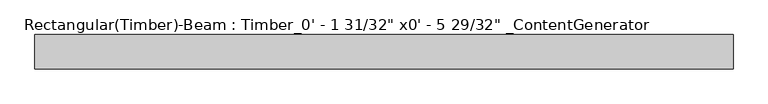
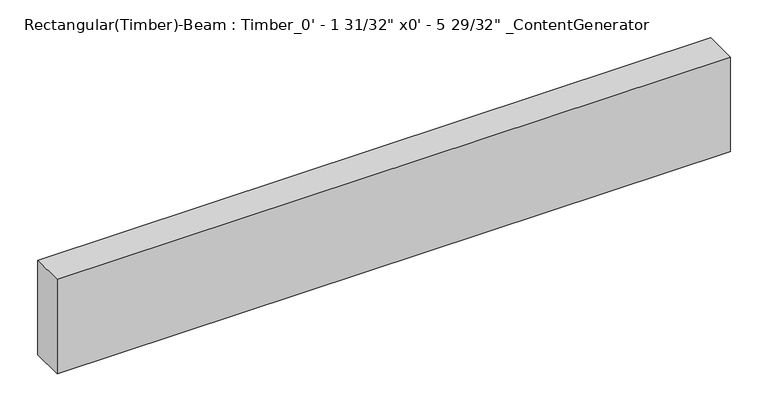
"""IFC4 building model written with IfcOpenShell, lengths in millimetres: beam geometry."""

import ifcopenshell
import ifcopenshell.guid

model = None  # the IFC model being written
_history = None  # IfcOwnerHistory: only IFC2X3 demands one
_inside = {}  # id of a spatial element -> (the spatial element, [elements in it])
_under = {}  # id of a project, library or spatial element -> (it, [spatial elements below it])
_declared = {}  # id of a project -> (the project, [libraries it declares])
_typed = {}  # id of a type object -> (the type object, [elements of that type])
_made_of = {}  # id of a material, layer set ... -> (it, [elements and type objects made of it])


def new_model(schema):
    """Start an empty IFC model of exactly this schema.

    Asked for "IFC4X3", IfcOpenShell would pick the latest addendum, in which some entities
    have other attributes; the version numbers below select the first issue.
    IFC2X3 requires an IfcOwnerHistory on every rooted entity: one is made here for all.
    """
    global model, _history
    if schema == "IFC4X3":
        model = ifcopenshell.file(schema_version=(4, 3, 0, 0))
    else:
        model = ifcopenshell.file(schema=schema)
    _inside.clear()
    _under.clear()
    _declared.clear()
    _typed.clear()
    _made_of.clear()
    _history = None
    if model.schema == "IFC2X3":
        org = make("IfcOrganization", Name="unknown")
        user = make(
            "IfcPersonAndOrganization",
            ThePerson=make("IfcPerson", FamilyName="unknown"),
            TheOrganization=org,
        )
        app = make(
            "IfcApplication",
            ApplicationDeveloper=org,
            Version="unknown",
            ApplicationFullName="unknown",
            ApplicationIdentifier="unknown",
        )
        _history = make(
            "IfcOwnerHistory",
            OwningUser=user,
            OwningApplication=app,
            ChangeAction="ADDED",
            CreationDate=0,
        )
    return model


def make(cls, **values):
    """One entity of the class cls with the attributes given. An attribute that is None is left unset."""
    return model.create_entity(
        cls, **{name: value for name, value in values.items() if value is not None}
    )


def rooted(cls, **values):
    """An entity with a GlobalId (a new one), such as an element, a storey or a relation."""
    return make(cls, GlobalId=ifcopenshell.guid.new(), OwnerHistory=_history, **values)


def si_unit(unit_type, name, prefix=None):
    """IfcSIUnit, for example si_unit("LENGTHUNIT", "METRE", prefix="MILLI")."""
    return make("IfcSIUnit", UnitType=unit_type, Prefix=prefix, Name=name)


def assignment(units):
    """IfcUnitAssignment: the units of a project."""
    return None if units is None else make("IfcUnitAssignment", Units=units)


def point(xyz):
    """IfcCartesianPoint."""
    return None if xyz is None else make("IfcCartesianPoint", Coordinates=xyz)


def direction(xyz):
    """IfcDirection."""
    return None if xyz is None else make("IfcDirection", DirectionRatios=xyz)


def frame(location, z_axis=None, x_axis=None):
    """IfcAxis2Placement3D, a coordinate frame: its origin and axes. An axis left out is left unset."""
    return make(
        "IfcAxis2Placement3D",
        Location=point(location),
        Axis=direction(z_axis),
        RefDirection=direction(x_axis),
    )


def origin():
    """The frame at (0, 0, 0) with its axes left unset."""
    return frame((0.0, 0.0, 0.0))


def place(relative_to, where):
    """IfcLocalPlacement: puts the frame where relative to a parent placement (None: the world)."""
    return make(
        "IfcLocalPlacement", PlacementRelTo=relative_to, RelativePlacement=where
    )


def context(
    kind, dimensions, precision=None, world=None, true_north=None, identifier=None
):
    """IfcGeometricRepresentationContext, for example the 3D "Model" context."""
    return make(
        "IfcGeometricRepresentationContext",
        ContextIdentifier=identifier,
        ContextType=kind,
        CoordinateSpaceDimension=dimensions,
        Precision=precision,
        WorldCoordinateSystem=world,
        TrueNorth=true_north,
    )


def project(units=None, contexts=None):
    """IfcProject with its units and contexts."""
    return rooted(
        "IfcProject",
        Name="project",
        RepresentationContexts=contexts,
        UnitsInContext=assignment(units),
    )


def spatial(cls, under=None, at=None, **own):
    """A site, building, storey or space (cls), placed at a placement, below another one or the project."""
    s = rooted(cls, ObjectPlacement=at, **own)
    if under is not None:
        _under.setdefault(under.id(), (under, []))[1].append(s)
    return s


def polyline(points):
    """IfcPolyline through the points."""
    return make("IfcPolyline", Points=[point(p) for p in points])


def outline(outer, holes=None, kind="AREA"):
    """IfcArbitraryClosedProfileDef: a profile drawn as a closed curve; with holes, ...WithVoids."""
    if holes is None:
        return make("IfcArbitraryClosedProfileDef", ProfileType=kind, OuterCurve=outer)
    return make(
        "IfcArbitraryProfileDefWithVoids",
        ProfileType=kind,
        OuterCurve=outer,
        InnerCurves=holes,
    )


def extrude(swept, where, along, depth):
    """IfcExtrudedAreaSolid: the profile swept, set in the frame where, extruded along a direction by depth."""
    return make(
        "IfcExtrudedAreaSolid",
        SweptArea=swept,
        Position=where,
        ExtrudedDirection=direction(along),
        Depth=depth,
    )


def shape(context_of_items, identifier, shape_type, items):
    """IfcShapeRepresentation: the items that make up one representation, for example the "Body"."""
    return make(
        "IfcShapeRepresentation",
        ContextOfItems=context_of_items,
        RepresentationIdentifier=identifier,
        RepresentationType=shape_type,
        Items=items,
    )


def source(mapping_origin, context_of_items, identifier, shape_type, items):
    """IfcRepresentationMap: a shape defined once, which mapped items show again and again."""
    return make(
        "IfcRepresentationMap",
        MappingOrigin=mapping_origin,
        MappedRepresentation=shape(context_of_items, identifier, shape_type, items),
    )


def transform(
    local_origin,
    x_axis=None,
    y_axis=None,
    z_axis=None,
    scale=None,
    scale2=None,
    scale3=None,
    uniform=True,
):
    """IfcCartesianTransformationOperator3D, or its non-uniform kind. x_axis, y_axis, z_axis: its Axis1, 2, 3."""
    if uniform:
        return make(
            "IfcCartesianTransformationOperator3D",
            Axis1=direction(x_axis),
            Axis2=direction(y_axis),
            LocalOrigin=point(local_origin),
            Scale=scale,
            Axis3=direction(z_axis),
        )
    return make(
        "IfcCartesianTransformationOperator3DnonUniform",
        Axis1=direction(x_axis),
        Axis2=direction(y_axis),
        LocalOrigin=point(local_origin),
        Scale=scale,
        Axis3=direction(z_axis),
        Scale2=scale2,
        Scale3=scale3,
    )


def mapped(mapping_source, mapping_target):
    """IfcMappedItem: shows the shape of a source again, moved by a transform."""
    return make(
        "IfcMappedItem", MappingSource=mapping_source, MappingTarget=mapping_target
    )


def made_of(thing, what):
    """Note that an element or type object is made of a material, layer set ...; save() writes the relation."""
    if what is not None:
        _made_of.setdefault(what.id(), (what, []))[1].append(thing)
    return thing


def element(
    cls,
    number,
    at=None,
    inside=None,
    cuts=None,
    type_object=None,
    material=None,
    context=None,
    identifier="Body",
    shape_type=None,
    held_by="IfcProductDefinitionShape",
    body=None,
    shapes=None,
    **own,
):
    """One element of the class cls, such as IfcWall. Its Tag is "e" and its number.

    at: its placement. inside: the storey or other place that contains it. cuts: it is an
    opening in that element (IfcRelVoidsElement). A single representation is given by context,
    identifier, shape_type and body (its items); several are given by shapes. held_by: the class
    of the entity that holds the representations. save() writes the other relations.
    """
    e = rooted(cls, Tag="e%d" % number, ObjectPlacement=at, **own)
    if body is not None:
        shapes = [shape(context, identifier, shape_type, body)]
    if shapes is not None:
        e.Representation = make(held_by, Representations=shapes)
    if inside is not None:
        _inside.setdefault(inside.id(), (inside, []))[1].append(e)
    if cuts is not None:
        rooted(
            "IfcRelVoidsElement", RelatingBuildingElement=cuts, RelatedOpeningElement=e
        )
    if type_object is not None:
        _typed.setdefault(type_object.id(), (type_object, []))[1].append(e)
    return made_of(e, material)


def aggregate(whole, parts):
    """IfcRelAggregates: a whole, such as a stair, and the parts it consists of."""
    return rooted("IfcRelAggregates", RelatingObject=whole, RelatedObjects=parts)


def save(model, path):
    """Write the relations noted so far, then the file.

    IfcRelAggregates (storeys below a building ...), IfcRelContainedInSpatialStructure (elements
    in a storey), IfcRelDefinesByType, IfcRelAssociatesMaterial and IfcRelDeclares: one each for
    every whole, place, type object, material and project.
    """
    for whole, parts in _under.values():
        aggregate(whole, parts)
    for where, things in _inside.values():
        rooted(
            "IfcRelContainedInSpatialStructure",
            RelatedElements=things,
            RelatingStructure=where,
        )
    for kind, things in _typed.values():
        rooted("IfcRelDefinesByType", RelatedObjects=things, RelatingType=kind)
    for what, things in _made_of.values():
        rooted("IfcRelAssociatesMaterial", RelatedObjects=things, RelatingMaterial=what)
    for by, libraries in _declared.values():
        rooted("IfcRelDeclares", RelatingContext=by, RelatedDefinitions=libraries)
    model.write(path)


def beam_07a85b6c(model_context):
    return source(origin(), model_context, "Body", "SweptSolid", [
        extrude(outline(polyline([(512.7625, 25.4), (512.7625, -25.4), (-512.7625, -25.4), (-512.7625, 25.4), (512.7625, 25.4)])), frame((0.0, 0.0, -76.2), z_axis=(0.0, 0.0, 1.0), x_axis=(1.0, 0.0, 0.0)), (0.0, 0.0, 1.0), 152.4),
    ])


if __name__ == "__main__":
    model = new_model("IFC4")
    model_context = context("Model", 3, world=origin())
    ifc_project = project(units=[si_unit("LENGTHUNIT", "METRE", prefix="MILLI")], contexts=[model_context])
    site = spatial("IfcSite", under=ifc_project)
    building = spatial("IfcBuilding", under=site)
    placement = place(None, origin())
    beam_shape = beam_07a85b6c(model_context)
    element("IfcBeam", 1, ObjectType="Rectangular(Timber)-Beam : Timber_0' - 1 31/32\" x0' - 5 29/32\" _ContentGenerator", at=placement, inside=building, context=model_context, shape_type="MappedRepresentation", body=[
        mapped(beam_shape, transform((0.0, 0.0, 0.0), x_axis=(1.0, 0.0, 0.0), y_axis=(0.0, 1.0, 0.0), z_axis=(0.0, 0.0, 1.0))),
    ])
    save(model, "model.ifc")
